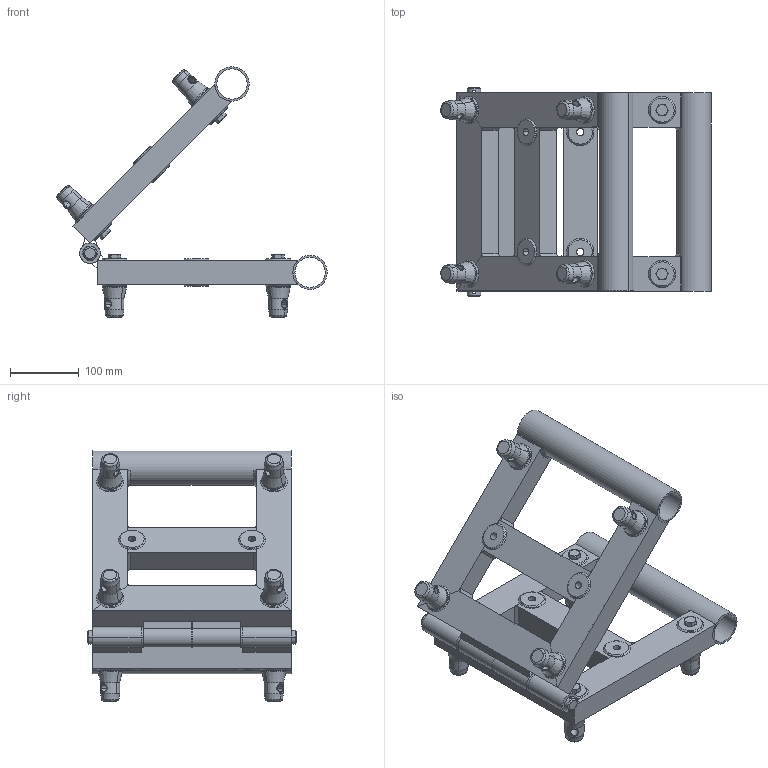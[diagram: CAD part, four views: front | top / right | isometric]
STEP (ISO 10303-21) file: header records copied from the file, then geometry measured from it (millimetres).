
FILE_DESCRIPTION((''),'2;1');
FILE_NAME('ANGV259_ALU_ASSEMBLE_ASM','2019-04-03T',('Patrick'),(''),'PRO/ENGINEER BY PARAMETRIC TECHNOLOGY CORPORATION, 2016100','PRO/ENGINEER BY PARAMETRIC TECHNOLOGY CORPORATION, 2016100','');
FILE_SCHEMA(('CONFIG_CONTROL_DESIGN'));
Length unit declared in the file: millimetre
Products named in the file (13): ANGV259_ALU_TUBE_H_CHASSIS; ANGV259_ALU_TUBE_V_CHASSIS; ANGV259_ALU_TUBE_M_CHASSIS; TUBE_50-3_0290; ANGV259_ALU_TUBE_FIXE_MOYEU; ANGV259_ALU_TUBE_CHARNIERE; ANGV259_ALU_CADRE_EXT_ASM; ANGV259_ALU_CADRE_INT_ASM; ANGV259_AXE; ANGV259_ALU_RONDELLE_PA6; DEMI_MOYEU_MALE_D50_HT45; VIS_H_M10_X_55_26; ANGV259_ALU_ASSEMBLE_ASM
Assembly tree (47 placements, depth 3):
  ANGV259_ALU_ASSEMBLE_ASM
    ANGV259_ALU_CADRE_EXT_ASM
      ANGV259_ALU_TUBE_H_CHASSIS  x2
      ANGV259_ALU_TUBE_V_CHASSIS
      ANGV259_ALU_TUBE_M_CHASSIS
      TUBE_50-3_0290
      ANGV259_ALU_TUBE_FIXE_MOYEU  x6
      ANGV259_ALU_TUBE_CHARNIERE  x2
    ANGV259_ALU_CADRE_INT_ASM
      ANGV259_ALU_TUBE_H_CHASSIS  x2
      ANGV259_ALU_TUBE_V_CHASSIS
      ANGV259_ALU_TUBE_M_CHASSIS
      TUBE_50-3_0290
      ANGV259_ALU_TUBE_FIXE_MOYEU  x6
      ANGV259_ALU_TUBE_CHARNIERE  x2
    ANGV259_AXE
    ANGV259_ALU_RONDELLE_PA6  x2
    DEMI_MOYEU_MALE_D50_HT45  x8
    VIS_H_M10_X_55_26  x8
Bounding box: 393.81 x 305 x 364.33 mm (x, y, z)
Volume: 1697966.5 mm3; surface area: 1008498 mm2
Topology: 45 solids, 119 shells, 848 faces, 2188 edges, 1484 vertices
Faces by surface type: plane 330, cylinder 250, cone 220, bspline 48
Entity records: 12780 total; most frequent: CARTESIAN_POINT 5026, DIRECTION 1758, ORIENTED_EDGE 1208, EDGE_CURVE 786, AXIS2_PLACEMENT_3D 656, VERTEX_POINT 595, VECTOR 446, LINE 446
